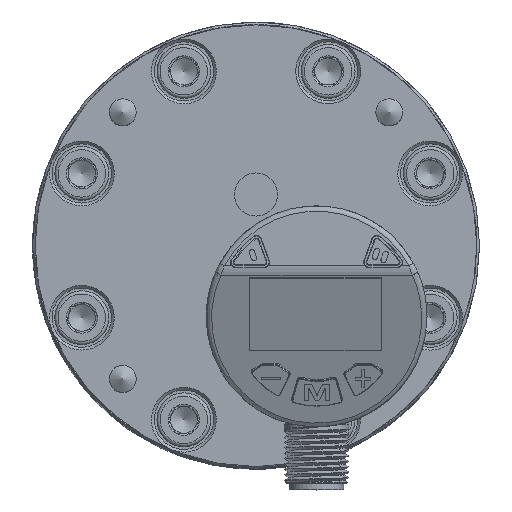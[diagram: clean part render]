
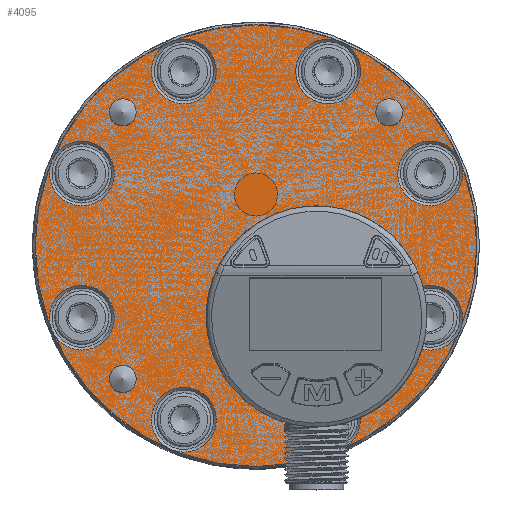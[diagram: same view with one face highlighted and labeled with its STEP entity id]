
A CAD part, top view. The second image highlights one B-rep face of the part: STEP entity #4095.
In plain terms, the highlighted planar face has unit normal (0, 0, -1).
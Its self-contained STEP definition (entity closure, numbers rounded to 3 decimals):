
#4095=ADVANCED_FACE('',(#5081,#5082,#5083,#5084,#5085,#5086,#5087,#5088,
#5089,#5090,#5091,#5092,#5093),#4726,.F.);
#4726=PLANE('',#12626);
#5081=FACE_BOUND('',#5796,.T.);
#5082=FACE_BOUND('',#5797,.T.);
#5083=FACE_BOUND('',#5798,.T.);
#5084=FACE_BOUND('',#5799,.T.);
#5085=FACE_BOUND('',#5800,.T.);
#5086=FACE_BOUND('',#5801,.T.);
#5087=FACE_BOUND('',#5802,.T.);
#5088=FACE_BOUND('',#5803,.T.);
#5089=FACE_BOUND('',#5804,.T.);
#5090=FACE_BOUND('',#5805,.T.);
#5091=FACE_BOUND('',#5806,.T.);
#5092=FACE_BOUND('',#5807,.T.);
#5093=FACE_BOUND('',#5808,.T.);
#5796=EDGE_LOOP('',(#7256));
#5797=EDGE_LOOP('',(#7257));
#5798=EDGE_LOOP('',(#7258));
#5799=EDGE_LOOP('',(#7259));
#5800=EDGE_LOOP('',(#7260));
#5801=EDGE_LOOP('',(#7261));
#5802=EDGE_LOOP('',(#7262));
#5803=EDGE_LOOP('',(#7263));
#5804=EDGE_LOOP('',(#7264));
#5805=EDGE_LOOP('',(#7265));
#5806=EDGE_LOOP('',(#7266));
#5807=EDGE_LOOP('',(#7267));
#5808=EDGE_LOOP('',(#7268));
#7256=ORIENTED_EDGE('',*,*,#10564,.T.);
#7257=ORIENTED_EDGE('',*,*,#10534,.T.);
#7258=ORIENTED_EDGE('',*,*,#10526,.T.);
#7259=ORIENTED_EDGE('',*,*,#10506,.T.);
#7260=ORIENTED_EDGE('',*,*,#10522,.T.);
#7261=ORIENTED_EDGE('',*,*,#10530,.T.);
#7262=ORIENTED_EDGE('',*,*,#10510,.T.);
#7263=ORIENTED_EDGE('',*,*,#10518,.T.);
#7264=ORIENTED_EDGE('',*,*,#10514,.T.);
#7265=ORIENTED_EDGE('',*,*,#10565,.T.);
#7266=ORIENTED_EDGE('',*,*,#10566,.T.);
#7267=ORIENTED_EDGE('',*,*,#10567,.T.);
#7268=ORIENTED_EDGE('',*,*,#10568,.T.);
#9438=VERTEX_POINT('',#17705);
#9442=VERTEX_POINT('',#17716);
#9446=VERTEX_POINT('',#17727);
#9450=VERTEX_POINT('',#17738);
#9454=VERTEX_POINT('',#17749);
#9458=VERTEX_POINT('',#17760);
#9462=VERTEX_POINT('',#17771);
#9466=VERTEX_POINT('',#17782);
#9488=VERTEX_POINT('',#17838);
#9489=VERTEX_POINT('',#17840);
#9490=VERTEX_POINT('',#17842);
#9491=VERTEX_POINT('',#17844);
#9492=VERTEX_POINT('',#17846);
#10506=EDGE_CURVE('',#9438,#9438,#11682,.T.);
#10510=EDGE_CURVE('',#9442,#9442,#11686,.T.);
#10514=EDGE_CURVE('',#9446,#9446,#11690,.T.);
#10518=EDGE_CURVE('',#9450,#9450,#11694,.T.);
#10522=EDGE_CURVE('',#9454,#9454,#11698,.T.);
#10526=EDGE_CURVE('',#9458,#9458,#11702,.T.);
#10530=EDGE_CURVE('',#9462,#9462,#11706,.T.);
#10534=EDGE_CURVE('',#9466,#9466,#11710,.T.);
#10564=EDGE_CURVE('',#9488,#9488,#11740,.T.);
#10565=EDGE_CURVE('',#9489,#9489,#11741,.T.);
#10566=EDGE_CURVE('',#9490,#9490,#11742,.T.);
#10567=EDGE_CURVE('',#9491,#9491,#11743,.T.);
#10568=EDGE_CURVE('',#9492,#9492,#11744,.T.);
#11682=CIRCLE('',#12538,3.25);
#11686=CIRCLE('',#12545,3.25);
#11690=CIRCLE('',#12552,3.25);
#11694=CIRCLE('',#12559,3.25);
#11698=CIRCLE('',#12566,3.25);
#11702=CIRCLE('',#12573,3.25);
#11706=CIRCLE('',#12580,3.25);
#11710=CIRCLE('',#12587,3.25);
#11740=CIRCLE('',#12621,41.);
#11741=CIRCLE('',#12622,2.5);
#11742=CIRCLE('',#12623,2.5);
#11743=CIRCLE('',#12624,2.5);
#11744=CIRCLE('',#12625,2.5);
#12538=AXIS2_PLACEMENT_3D('',#17704,#14418,#14419);
#12545=AXIS2_PLACEMENT_3D('',#17715,#14432,#14433);
#12552=AXIS2_PLACEMENT_3D('',#17726,#14446,#14447);
#12559=AXIS2_PLACEMENT_3D('',#17737,#14460,#14461);
#12566=AXIS2_PLACEMENT_3D('',#17748,#14474,#14475);
#12573=AXIS2_PLACEMENT_3D('',#17759,#14488,#14489);
#12580=AXIS2_PLACEMENT_3D('',#17770,#14502,#14503);
#12587=AXIS2_PLACEMENT_3D('',#17781,#14516,#14517);
#12621=AXIS2_PLACEMENT_3D('',#17837,#14584,#14585);
#12622=AXIS2_PLACEMENT_3D('',#17839,#14586,#14587);
#12623=AXIS2_PLACEMENT_3D('',#17841,#14588,#14589);
#12624=AXIS2_PLACEMENT_3D('',#17843,#14590,#14591);
#12625=AXIS2_PLACEMENT_3D('',#17845,#14592,#14593);
#12626=AXIS2_PLACEMENT_3D('',#17847,#14594,#14595);
#14418=DIRECTION('',(0.,0.,1.));
#14419=DIRECTION('',(1.,0.,0.));
#14432=DIRECTION('',(0.,0.,1.));
#14433=DIRECTION('',(1.,0.,0.));
#14446=DIRECTION('',(0.,0.,1.));
#14447=DIRECTION('',(1.,0.,0.));
#14460=DIRECTION('',(0.,0.,1.));
#14461=DIRECTION('',(1.,0.,0.));
#14474=DIRECTION('',(0.,0.,1.));
#14475=DIRECTION('',(1.,0.,0.));
#14488=DIRECTION('',(0.,0.,1.));
#14489=DIRECTION('',(1.,0.,0.));
#14502=DIRECTION('',(0.,0.,1.));
#14503=DIRECTION('',(1.,0.,0.));
#14516=DIRECTION('',(0.,0.,1.));
#14517=DIRECTION('',(1.,0.,0.));
#14584=DIRECTION('',(0.,0.,-1.));
#14585=DIRECTION('',(1.,0.,0.));
#14586=DIRECTION('',(0.,0.,1.));
#14587=DIRECTION('',(1.,0.,0.));
#14588=DIRECTION('',(0.,0.,1.));
#14589=DIRECTION('',(1.,0.,0.));
#14590=DIRECTION('',(0.,0.,1.));
#14591=DIRECTION('',(1.,0.,0.));
#14592=DIRECTION('',(0.,0.,1.));
#14593=DIRECTION('',(1.,0.,0.));
#14594=DIRECTION('',(0.,0.,1.));
#14595=DIRECTION('',(1.,0.,0.));
#17704=CARTESIAN_POINT('',(32.336,14.394,38.));
#17705=CARTESIAN_POINT('',(35.586,14.394,38.));
#17715=CARTESIAN_POINT('',(-13.394,-31.336,38.));
#17716=CARTESIAN_POINT('',(-10.144,-31.336,38.));
#17726=CARTESIAN_POINT('',(-32.336,14.394,38.));
#17727=CARTESIAN_POINT('',(-29.086,14.394,38.));
#17737=CARTESIAN_POINT('',(-32.336,-12.394,38.));
#17738=CARTESIAN_POINT('',(-29.086,-12.394,38.));
#17748=CARTESIAN_POINT('',(32.336,-12.394,38.));
#17749=CARTESIAN_POINT('',(35.586,-12.394,38.));
#17759=CARTESIAN_POINT('',(13.394,33.336,38.));
#17760=CARTESIAN_POINT('',(16.644,33.336,38.));
#17770=CARTESIAN_POINT('',(13.394,-31.336,38.));
#17771=CARTESIAN_POINT('',(16.644,-31.336,38.));
#17781=CARTESIAN_POINT('',(-13.394,33.336,38.));
#17782=CARTESIAN_POINT('',(-10.144,33.336,38.));
#17837=CARTESIAN_POINT('',(0.,1.,38.));
#17838=CARTESIAN_POINT('',(41.,1.,38.));
#17839=CARTESIAN_POINT('',(-24.749,-23.749,38.));
#17840=CARTESIAN_POINT('',(-22.249,-23.749,38.));
#17841=CARTESIAN_POINT('',(24.749,-23.749,38.));
#17842=CARTESIAN_POINT('',(27.249,-23.749,38.));
#17843=CARTESIAN_POINT('',(24.749,25.749,38.));
#17844=CARTESIAN_POINT('',(27.249,25.749,38.));
#17845=CARTESIAN_POINT('',(-24.749,25.749,38.));
#17846=CARTESIAN_POINT('',(-22.249,25.749,38.));
#17847=CARTESIAN_POINT('',(0.,1.,38.));
